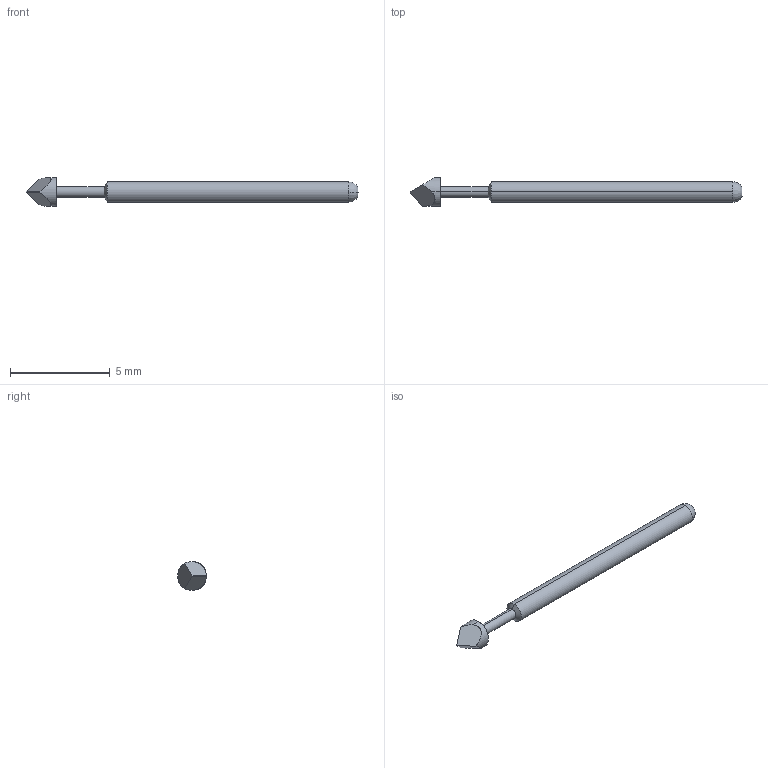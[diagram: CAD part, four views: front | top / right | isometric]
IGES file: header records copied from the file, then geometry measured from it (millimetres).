
Start section: SolidWorks IGES file using analytic representation for surfaces
Global section: file name: Z:\probe solid model mockups\Solidworks models\IGES Files\HPA-1\HPA-1T.IGS; native system: SolidWorks 2006 by SolidWorks Corporation; preprocessor: SolidWorks 2006 by SolidWorks Corporation; author: tsakatani; date: 071220.112536; units: inch
Bounding box: 16.64 x 1.45 x 1.45 mm (x, y, z)
Surface area: 51.9 mm2 (no closed solid volume)
Topology: 0 solids, 0 shells, 15 faces, 144 edges, 144 vertices
Faces by surface type: revolution 10, bspline 5
